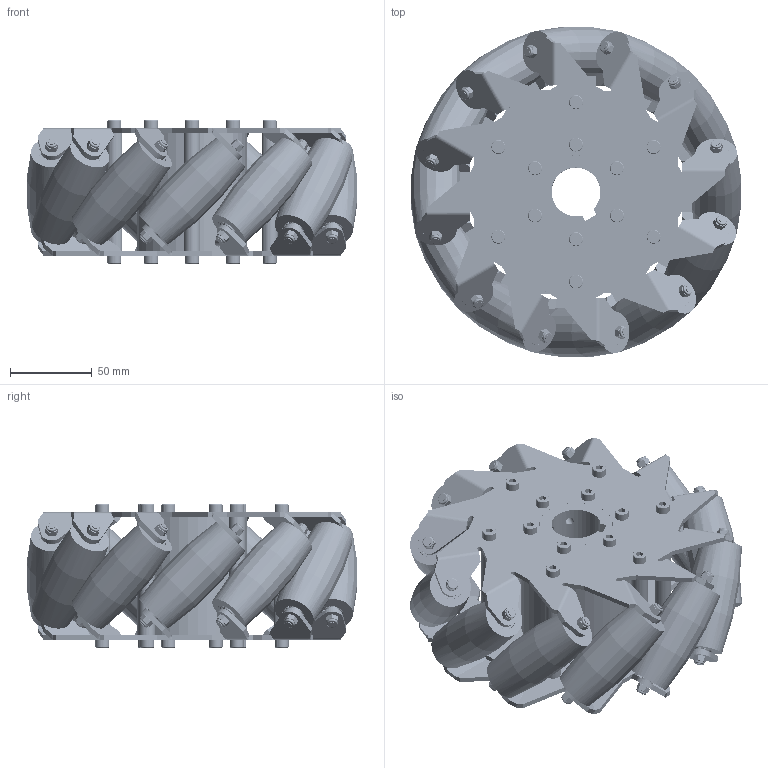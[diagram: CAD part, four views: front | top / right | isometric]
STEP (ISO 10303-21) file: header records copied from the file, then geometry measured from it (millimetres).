
FILE_DESCRIPTION(('Open CASCADE Model'),'2;1');
FILE_NAME('Open CASCADE Shape Model','2026-10-14T17:18:09',('Author'),( 'Open CASCADE'),'Open CASCADE STEP processor 7.7','Open CASCADE 7.7' ,'Unknown');
FILE_SCHEMA(('AUTOMOTIVE_DESIGN { 1 0 10303 214 1 1 1 1 }'));
Length unit declared in the file: millimetre
Products named in the file (384): Open CASCADE STEP translator 7.7 4; Open CASCADE STEP translator 7.7 4.1; Open CASCADE STEP translator 7.7 4.1.1; Open CASCADE STEP translator 7.7 4.1.2; Open CASCADE STEP translator 7.7 4.1.3; Open CASCADE STEP translator 7.7 4.1.3.1; Open CASCADE STEP translator 7.7 4.1.3.2; Open CASCADE STEP translator 7.7 4.1.3.3; Open CASCADE STEP translator 7.7 4.1.3.4; Open CASCADE STEP translator 7.7 4.1.3.5; Open CASCADE STEP translator 7.7 4.1.3.6; Open CASCADE STEP translator 7.7 4.1.3.7; Open CASCADE STEP translator 7.7 4.1.3.8; Open CASCADE STEP translator 7.7 4.1.3.9; Open CASCADE STEP translator 7.7 4.1.3.10; Open CASCADE STEP translator 7.7 4.1.4; Open CASCADE STEP translator 7.7 4.1.5; Open CASCADE STEP translator 7.7 4.1.6; Open CASCADE STEP translator 7.7 4.1.7; Open CASCADE STEP translator 7.7 4.1.8; Open CASCADE STEP translator 7.7 4.1.8.1; Open CASCADE STEP translator 7.7 4.1.8.2; Open CASCADE STEP translator 7.7 4.1.8.3; Open CASCADE STEP translator 7.7 4.1.8.4; Open CASCADE STEP translator 7.7 4.1.8.5; Open CASCADE STEP translator 7.7 4.1.8.6; Open CASCADE STEP translator 7.7 4.1.8.7; Open CASCADE STEP translator 7.7 4.1.8.8; Open CASCADE STEP translator 7.7 4.1.8.9; Open CASCADE STEP translator 7.7 4.1.8.10; Open CASCADE STEP translator 7.7 4.2; Open CASCADE STEP translator 7.7 4.3; Open CASCADE STEP translator 7.7 4.3.1; Open CASCADE STEP translator 7.7 4.3.2; Open CASCADE STEP translator 7.7 4.3.3; Open CASCADE STEP translator 7.7 4.3.3.1; Open CASCADE STEP translator 7.7 4.3.3.2; Open CASCADE STEP translator 7.7 4.3.3.3; Open CASCADE STEP translator 7.7 4.3.3.4; Open CASCADE STEP translator 7.7 4.3.3.5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
Assembly tree (383 placements, depth 4):
  Open CASCADE STEP translator 7.7 4
    Open CASCADE STEP translator 7.7 4.1
      Open CASCADE STEP translator 7.7 4.1.1
      Open CASCADE STEP translator 7.7 4.1.2
      Open CASCADE STEP translator 7.7 4.1.3
        Open CASCADE STEP translator 7.7 4.1.3.1
        Open CASCADE STEP translator 7.7 4.1.3.2
        Open CASCADE STEP translator 7.7 4.1.3.3
        Open CASCADE STEP translator 7.7 4.1.3.4
        Open CASCADE STEP translator 7.7 4.1.3.5
        Open CASCADE STEP translator 7.7 4.1.3.6
        Open CASCADE STEP translator 7.7 4.1.3.7
        Open CASCADE STEP translator 7.7 4.1.3.8
        Open CASCADE STEP translator 7.7 4.1.3.9
        Open CASCADE STEP translator 7.7 4.1.3.10
      Open CASCADE STEP translator 7.7 4.1.4
      Open CASCADE STEP translator 7.7 4.1.5
      Open CASCADE STEP translator 7.7 4.1.6
      Open CASCADE STEP translator 7.7 4.1.7
      Open CASCADE STEP translator 7.7 4.1.8
        Open CASCADE STEP translator 7.7 4.1.8.1
        Open CASCADE STEP translator 7.7 4.1.8.2
        Open CASCADE STEP translator 7.7 4.1.8.3
        Open CASCADE STEP translator 7.7 4.1.8.4
        Open CASCADE STEP translator 7.7 4.1.8.5
        Open CASCADE STEP translator 7.7 4.1.8.6
        Open CASCADE STEP translator 7.7 4.1.8.7
        Open CASCADE STEP translator 7.7 4.1.8.8
        Open CASCADE STEP translator 7.7 4.1.8.9
        Open CASCADE STEP translator 7.7 4.1.8.10
    Open CASCADE STEP translator 7.7 4.2
    Open CASCADE STEP translator 7.7 4.3
      Open CASCADE STEP translator 7.7 4.3.1
      Open CASCADE STEP translator 7.7 4.3.2
      Open CASCADE STEP translator 7.7 4.3.3
        Open CASCADE STEP translator 7.7 4.3.3.1
        Open CASCADE STEP translator 7.7 4.3.3.2
        Open CASCADE STEP translator 7.7 4.3.3.3
        Open CASCADE STEP translator 7.7 4.3.3.4
        Open CASCADE STEP translator 7.7 4.3.3.5
        Open CASCADE STEP translator 7.7 4.3.3.6
        Open CASCADE STEP translator 7.7 4.3.3.7
        Open CASCADE STEP translator 7.7 4.3.3.8
        Open CASCADE STEP translator 7.7 4.3.3.9
        Open CASCADE STEP translator 7.7 4.3.3.10
      Open CASCADE STEP translator 7.7 4.3.4
      Open CASCADE STEP translator 7.7 4.3.5
      Open CASCADE STEP translator 7.7 4.3.6
      Open CASCADE STEP translator 7.7 4.3.7
      Open CASCADE STEP translator 7.7 4.3.8
        Open CASCADE STEP translator 7.7 4.3.8.1
        Open CASCADE STEP translator 7.7 4.3.8.2
        Open CASCADE STEP translator 7.7 4.3.8.3
        Open CASCADE STEP translator 7.7 4.3.8.4
        Open CASCADE STEP translator 7.7 4.3.8.5
        Open CASCADE STEP translator 7.7 4.3.8.6
        Open CASCADE STEP translator 7.7 4.3.8.7
        Open CASCADE STEP translator 7.7 4.3.8.8
        Open CASCADE STEP translator 7.7 4.3.8.9
        Open CASCADE STEP translator 7.7 4.3.8.10
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Bounding box: 202.11 x 202.11 x 88 mm (x, y, z)
Volume: 901323.9 mm3; surface area: 319647.1 mm2
Topology: 345 solids, 345 shells, 3355 faces, 7781 edges, 4852 vertices
Faces by surface type: cylinder 1058, plane 1021, torus 576, sphere 384, cone 268, revolution 24, bspline 24
Entity records: 226730 total; most frequent: CARTESIAN_POINT 68562, DIRECTION 30317, ORIENTED_EDGE 14738, PCURVE 14738, DEFINITIONAL_REPRESENTATION 14738, LINE 14025, VECTOR 14025, AXIS2_PLACEMENT_3D 7715
